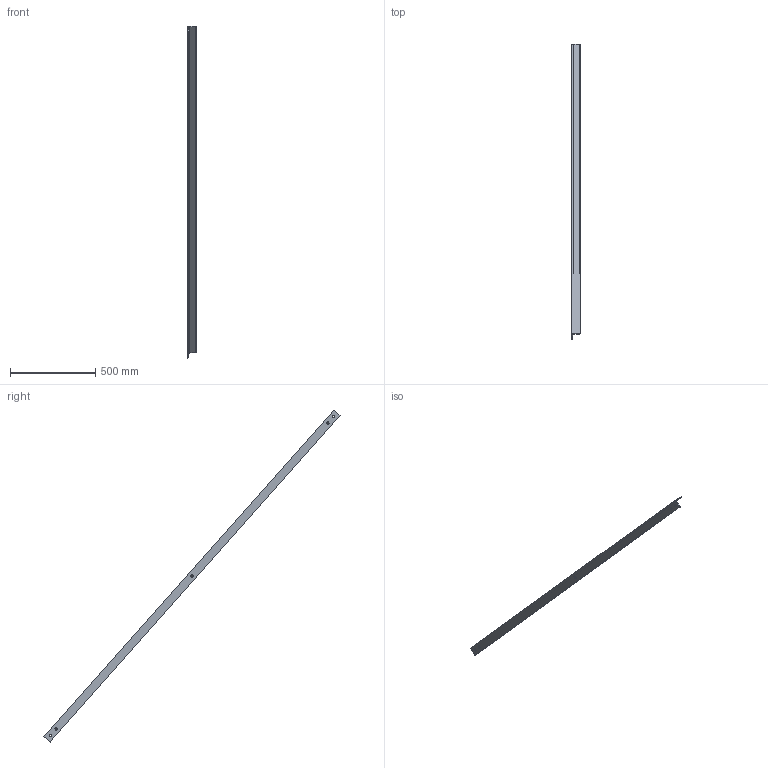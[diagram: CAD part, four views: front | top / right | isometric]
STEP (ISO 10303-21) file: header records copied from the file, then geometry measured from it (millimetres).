
FILE_DESCRIPTION (( 'STEP AP214' ), '1' );
FILE_NAME ('CCJ029-REP.053 - CONTREVENTEMENT SUP. B4-C4.STEP', '2024-01-10T14:42:54', ( '' ), ( '' ), 'SwSTEP 2.0', 'SolidWorks 2021', '' );
FILE_SCHEMA (( 'AUTOMOTIVE_DESIGN' ));
Length unit declared in the file: millimetre
Products named in the file (1): CCJ029-REP.053 - CONTREVENTEMENT SUP. B4-C4
Bounding box: 50 x 1738.21 x 1948.86 mm (x, y, z)
Volume: 1226450.7 mm3; surface area: 497477.1 mm2
Topology: 1 solids, 1 shells, 21 faces, 57 edges, 38 vertices
Faces by surface type: cylinder 13, plane 8
Entity records: 731 total; most frequent: DIRECTION 127, CARTESIAN_POINT 117, ORIENTED_EDGE 114, EDGE_CURVE 57, AXIS2_PLACEMENT_3D 48, VERTEX_POINT 38, LINE 31, VECTOR 31
